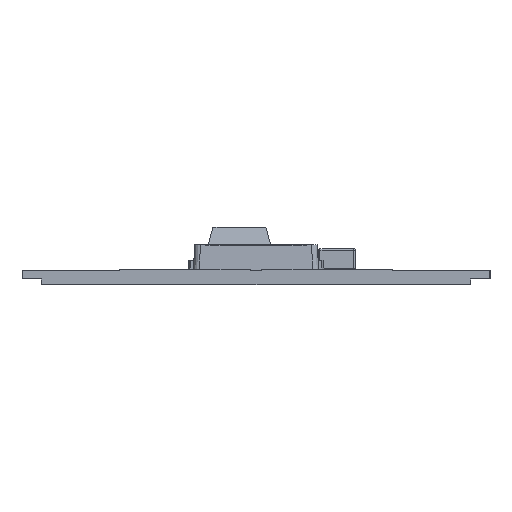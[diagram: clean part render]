
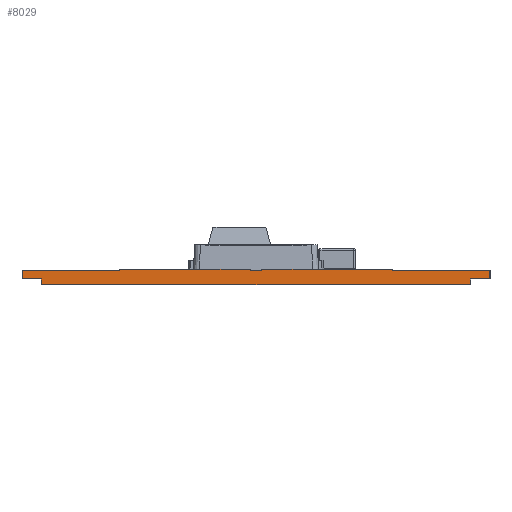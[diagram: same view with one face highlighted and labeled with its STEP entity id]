
A CAD part, left-side view. The second image highlights one B-rep face of the part: STEP entity #8029.
In plain terms, the highlighted planar face has unit normal (-1, 0, 0).
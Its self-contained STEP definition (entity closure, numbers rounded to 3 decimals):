
#1372=DIRECTION('',(0.,1.,0.));
#1373=VECTOR('',#1372,2.5);
#1374=CARTESIAN_POINT('',(-50.,3.5,0.375));
#1375=LINE('',#1374,#1373);
#1376=DIRECTION('',(0.,1.,0.));
#1377=VECTOR('',#1376,3.35);
#1378=CARTESIAN_POINT('',(-50.,0.15,0.395));
#1379=LINE('',#1378,#1377);
#1380=DIRECTION('',(0.,0.,1.));
#1381=VECTOR('',#1380,0.02);
#1382=CARTESIAN_POINT('',(-50.,0.15,0.375));
#1383=LINE('',#1382,#1381);
#1384=DIRECTION('',(0.,1.,0.));
#1385=VECTOR('',#1384,0.3);
#1386=CARTESIAN_POINT('',(-50.,-0.15,0.375));
#1387=LINE('',#1386,#1385);
#1388=DIRECTION('',(0.,1.,0.));
#1389=VECTOR('',#1388,3.35);
#1390=CARTESIAN_POINT('',(-50.,-3.5,0.395));
#1391=LINE('',#1390,#1389);
#1392=DIRECTION('',(0.,0.,1.));
#1393=VECTOR('',#1392,0.02);
#1394=CARTESIAN_POINT('',(-50.,-3.5,0.375));
#1395=LINE('',#1394,#1393);
#1396=DIRECTION('',(0.,1.,0.));
#1397=VECTOR('',#1396,2.5);
#1398=CARTESIAN_POINT('',(-50.,-6.,0.375));
#1399=LINE('',#1398,#1397);
#1400=DIRECTION('',(0.,0.,1.));
#1401=VECTOR('',#1400,0.225);
#1402=CARTESIAN_POINT('',(-50.,-6.,0.15));
#1403=LINE('',#1402,#1401);
#1444=DIRECTION('',(0.,0.,1.));
#1445=VECTOR('',#1444,0.15);
#1446=CARTESIAN_POINT('',(-50.,-5.5,0.));
#1447=LINE('',#1446,#1445);
#1456=DIRECTION('',(0.,-1.,0.));
#1457=VECTOR('',#1456,0.5);
#1458=CARTESIAN_POINT('',(-50.,6.,0.15));
#1459=LINE('',#1458,#1457);
#1460=DIRECTION('',(0.,-1.,0.));
#1461=VECTOR('',#1460,0.5);
#1462=CARTESIAN_POINT('',(-50.,-5.5,0.15));
#1463=LINE('',#1462,#1461);
#1476=DIRECTION('',(0.,0.,-1.));
#1477=VECTOR('',#1476,0.15);
#1478=CARTESIAN_POINT('',(-50.,5.5,0.15));
#1479=LINE('',#1478,#1477);
#1484=DIRECTION('',(0.,-1.,0.));
#1485=VECTOR('',#1484,11.);
#1486=CARTESIAN_POINT('',(-50.,5.5,0.));
#1487=LINE('',#1486,#1485);
#1500=DIRECTION('',(0.,0.,-1.));
#1501=VECTOR('',#1500,0.225);
#1502=CARTESIAN_POINT('',(-50.,6.,0.375));
#1503=LINE('',#1502,#1501);
#1584=DIRECTION('',(0.,0.,1.));
#1585=VECTOR('',#1584,0.02);
#1586=CARTESIAN_POINT('',(-50.,3.5,0.375));
#1587=LINE('',#1586,#1585);
#1608=DIRECTION('',(0.,0.,1.));
#1609=VECTOR('',#1608,0.02);
#1610=CARTESIAN_POINT('',(-50.,-0.15,0.375));
#1611=LINE('',#1610,#1609);
#5862=CARTESIAN_POINT('',(-50.,6.,0.375));
#5864=VERTEX_POINT('',#5862);
#5884=CARTESIAN_POINT('',(-50.,-0.15,0.375));
#5885=CARTESIAN_POINT('',(-50.,0.15,0.375));
#5886=VERTEX_POINT('',#5884);
#5887=VERTEX_POINT('',#5885);
#5903=CARTESIAN_POINT('',(-50.,0.15,0.395));
#5905=VERTEX_POINT('',#5903);
#5913=CARTESIAN_POINT('',(-50.,-6.,0.375));
#5915=VERTEX_POINT('',#5913);
#5922=CARTESIAN_POINT('',(-50.,-3.5,0.375));
#5923=CARTESIAN_POINT('',(-50.,-3.5,0.395));
#5924=VERTEX_POINT('',#5922);
#5925=VERTEX_POINT('',#5923);
#5942=CARTESIAN_POINT('',(-50.,3.5,0.395));
#5943=VERTEX_POINT('',#5942);
#5946=CARTESIAN_POINT('',(-50.,3.5,0.375));
#5947=VERTEX_POINT('',#5946);
#5950=CARTESIAN_POINT('',(-50.,-0.15,0.395));
#5951=VERTEX_POINT('',#5950);
#7323=CARTESIAN_POINT('',(-50.,5.5,0.));
#7324=CARTESIAN_POINT('',(-50.,-5.5,0.));
#7325=VERTEX_POINT('',#7323);
#7326=VERTEX_POINT('',#7324);
#7331=CARTESIAN_POINT('',(-50.,-6.,0.15));
#7333=VERTEX_POINT('',#7331);
#7336=CARTESIAN_POINT('',(-50.,6.,0.15));
#7338=VERTEX_POINT('',#7336);
#7339=CARTESIAN_POINT('',(-50.,5.5,0.15));
#7341=VERTEX_POINT('',#7339);
#7344=CARTESIAN_POINT('',(-50.,-5.5,0.15));
#7346=VERTEX_POINT('',#7344);
#7993=CARTESIAN_POINT('',(-50.,6.,0.375));
#7994=DIRECTION('',(-1.,0.,0.));
#7995=DIRECTION('',(0.,0.,1.));
#7996=AXIS2_PLACEMENT_3D('',#7993,#7994,#7995);
#7997=PLANE('',#7996);
#7999=ORIENTED_EDGE('',*,*,#7998,.F.);
#8001=ORIENTED_EDGE('',*,*,#8000,.F.);
#8003=ORIENTED_EDGE('',*,*,#8002,.F.);
#8005=ORIENTED_EDGE('',*,*,#8004,.F.);
#8007=ORIENTED_EDGE('',*,*,#8006,.F.);
#8009=ORIENTED_EDGE('',*,*,#8008,.F.);
#8011=ORIENTED_EDGE('',*,*,#8010,.F.);
#8012=ORIENTED_EDGE('',*,*,#7399,.F.);
#8014=ORIENTED_EDGE('',*,*,#8013,.T.);
#8016=ORIENTED_EDGE('',*,*,#8015,.F.);
#8018=ORIENTED_EDGE('',*,*,#8017,.F.);
#8019=ORIENTED_EDGE('',*,*,#7391,.F.);
#8021=ORIENTED_EDGE('',*,*,#8020,.T.);
#8023=ORIENTED_EDGE('',*,*,#8022,.F.);
#8025=ORIENTED_EDGE('',*,*,#8024,.F.);
#8026=ORIENTED_EDGE('',*,*,#7423,.F.);
#8027=EDGE_LOOP('',(#7999,#8001,#8003,#8005,#8007,#8009,#8011,#8012,#8014,#8016,
#8018,#8019,#8021,#8023,#8025,#8026));
#8028=FACE_OUTER_BOUND('',#8027,.F.);
#8029=ADVANCED_FACE('',(#8028),#7997,.T.);
#7391=EDGE_CURVE('',#5886,#5887,#1387,.T.);
#7399=EDGE_CURVE('',#5947,#5864,#1375,.T.);
#7423=EDGE_CURVE('',#5915,#5924,#1399,.T.);
#7998=EDGE_CURVE('',#7333,#5915,#1403,.T.);
#8000=EDGE_CURVE('',#7346,#7333,#1463,.T.);
#8002=EDGE_CURVE('',#7326,#7346,#1447,.T.);
#8004=EDGE_CURVE('',#7325,#7326,#1487,.T.);
#8006=EDGE_CURVE('',#7341,#7325,#1479,.T.);
#8008=EDGE_CURVE('',#7338,#7341,#1459,.T.);
#8010=EDGE_CURVE('',#5864,#7338,#1503,.T.);
#8013=EDGE_CURVE('',#5947,#5943,#1587,.T.);
#8015=EDGE_CURVE('',#5905,#5943,#1379,.T.);
#8017=EDGE_CURVE('',#5887,#5905,#1383,.T.);
#8020=EDGE_CURVE('',#5886,#5951,#1611,.T.);
#8022=EDGE_CURVE('',#5925,#5951,#1391,.T.);
#8024=EDGE_CURVE('',#5924,#5925,#1395,.T.);
